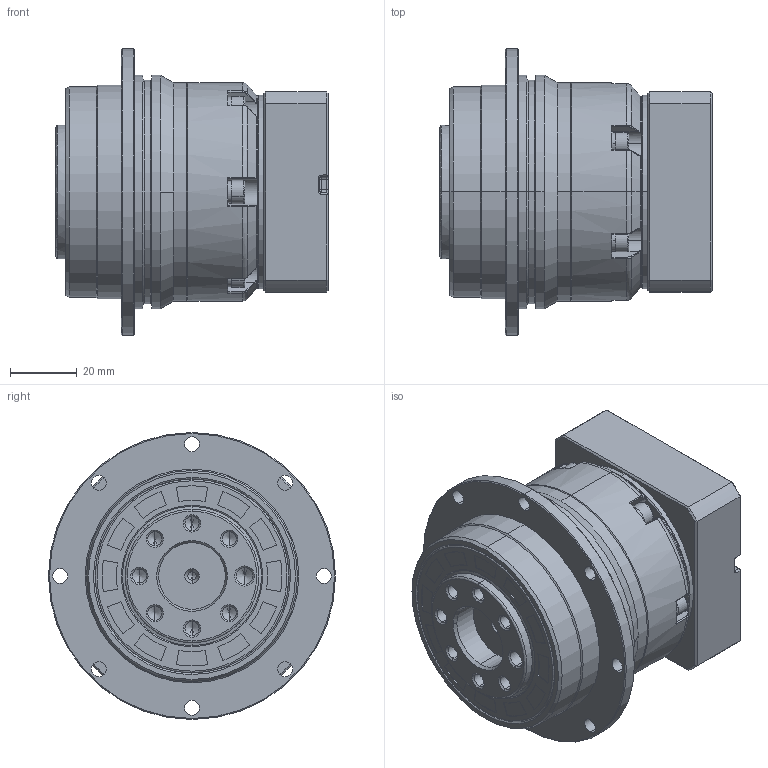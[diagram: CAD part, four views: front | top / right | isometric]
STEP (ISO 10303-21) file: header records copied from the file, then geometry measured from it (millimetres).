
FILE_DESCRIPTION (( 'STEP AP214' ), '1' );
FILE_NAME ('FAD064D-L1-14-50-70-M4-34.STEP', '2021-04-24T08:47:24', ( '微软用户' ), ( '微软中国' ), 'SwSTEP 2.0', 'SolidWorks 2014', '' );
FILE_SCHEMA (( 'AUTOMOTIVE_DESIGN' ));
Length unit declared in the file: millimetre
Products named in the file (33): 坶踡遠18-37-12; 输入太阳齿轮060D-14; 11-输入法兰VRT060D-50-70-M4; spring lock washers--normal type gb_GB_FASTENER_WASHER_SW 4; FAD064D-L1-14-50-70-M4-34; hexagon socket head cap screws gb_GB_FASTENER_SCREWS_HSHCS M4X20-N; 蚐猾40585; VRT064D怀堤俴陎殤; VRT064D齿圈; 3-输入端壳体VRT064D; hex socket set screws with flat point gb_GB_FASTENER_SCREWS_HSFP M10X8-N; hexagon socket head cap screws gb_GB_FASTENER_SCREWS_HSHCS M5X12-N
Assembly tree (21 placements, depth 2):
  坶踡遠18-37-12
  输入太阳齿轮060D-14
  11-输入法兰VRT060D-50-70-M4
  spring lock washers--normal type gb_GB_FASTENER_WASHER_SW 4
  FAD064D-L1-14-50-70-M4-34
    11-输入法兰VRT060D-50-70-M4
    输入太阳齿轮060D-14
    坶踡遠18-37-12
    hexagon socket head cap screws gb_GB_FASTENER_SCREWS_HSHCS M5X12-N
    hex socket set screws with flat point gb_GB_FASTENER_SCREWS_HSFP M10X8-N
    3-输入端壳体VRT064D
    VRT064D齿圈
    VRT064D怀堤俴陎殤
    蚐猾40585
    hexagon socket head cap screws gb_GB_FASTENER_SCREWS_HSHCS M4X20-N  x6
    spring lock washers--normal type gb_GB_FASTENER_WASHER_SW 4  x6
Bounding box: 81.5 x 86 x 86 mm (x, y, z)
Volume: 216033.1 mm3; surface area: 79938.1 mm2
Topology: 21 solids, 22 shells, 1226 faces, 2925 edges, 1755 vertices
Faces by surface type: cylinder 389, plane 337, cone 260, bspline 240
Entity records: 52384 total; most frequent: CARTESIAN_POINT 16837, ORIENTED_EDGE 4910, DIRECTION 4808, EDGE_CURVE 2455, AXIS2_PLACEMENT_3D 1931, VERTEX_POINT 1500, EDGE_LOOP 1173, CIRCLE 1085
